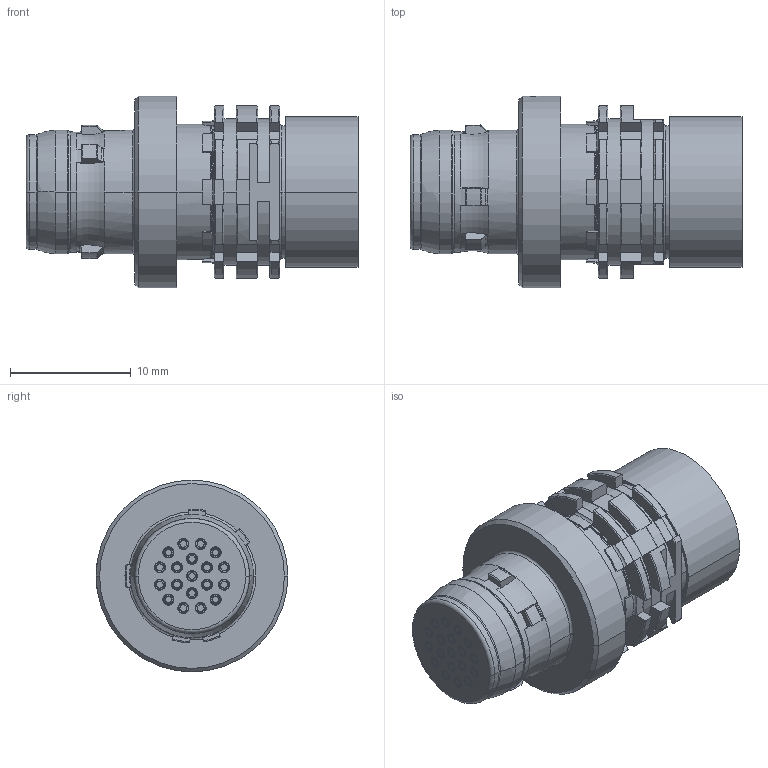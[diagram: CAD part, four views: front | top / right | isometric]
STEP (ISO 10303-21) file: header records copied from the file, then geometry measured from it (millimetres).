
FILE_DESCRIPTION((''),'2;1');
FILE_NAME('A1AY_R-P19WDD0-R000_EXTERN','2020-10-27T08:43:45',('EUnterhaslberger'),(''),'CREO PARAMETRIC BY PTC INC, 2018300','CREO PARAMETRIC BY PTC INC, 2018300','');
FILE_SCHEMA(('AP242_MANAGED_MODEL_BASED_3D_ENGINEERING_MIM_LF { 1 0 10303 442 1 1 4 }'));
Length unit declared in the file: millimetre
Products named in the file (1): A1AY_R-P19WDD0-R000_EXTERN
Bounding box: 27.5 x 15.9 x 15.9 mm (x, y, z)
Volume: 2383.3 mm3; surface area: 3887.8 mm2
Topology: 2 solids, 21 shells, 1094 faces, 2892 edges, 1873 vertices
Faces by surface type: cylinder 391, plane 355, cone 179, torus 167, bspline 2
Entity records: 43423 total; most frequent: CARTESIAN_POINT 8357, DIRECTION 6088, ORIENTED_EDGE 5708, EDGE_CURVE 2854, AXIS2_PLACEMENT_3D 2498, VERTEX_POINT 1873, CIRCLE 1406, EDGE_LOOP 1225
